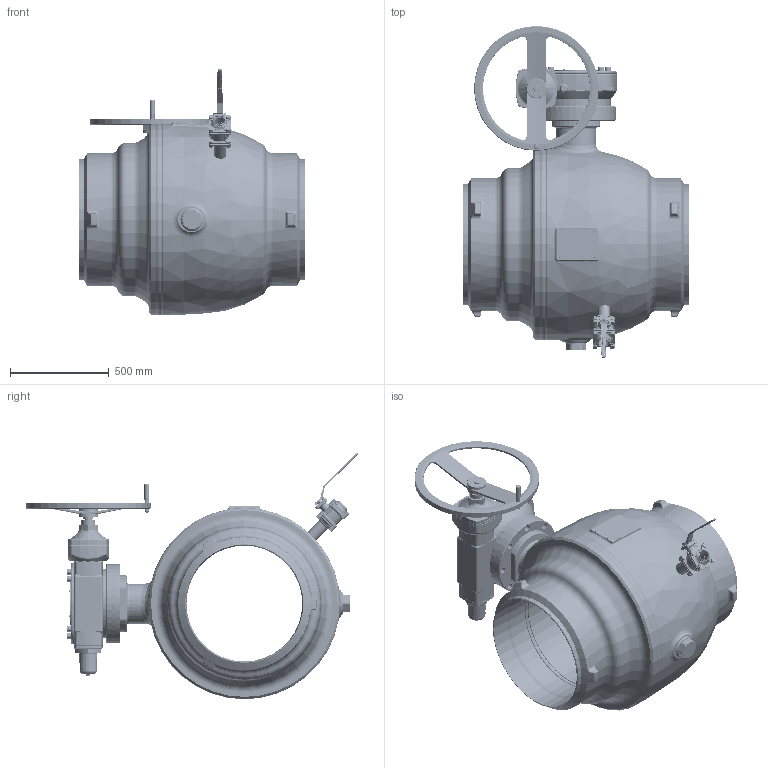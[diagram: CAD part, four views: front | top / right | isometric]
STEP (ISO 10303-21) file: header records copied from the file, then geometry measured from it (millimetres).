
FILE_DESCRIPTION((''),'2;1');
FILE_NAME('ASM0001_ASM','2026-01-28T11:14:52',('schwaba'),('KLINGER'),'CREO PARAMETRIC BY PTC INC, 2023014','CREO PARAMETRIC BY PTC INC, 2023014','');
FILE_SCHEMA(('CONFIG_CONTROL_DESIGN'));
Length unit declared in the file: millimetre
Products named in the file (3): KHSVI_600_FR_WE_ENTL; GS200_434_F30_AHR630_DN600; ASM0001_ASM
Assembly tree (2 placements, depth 2):
  ASM0001_ASM
    KHSVI_600_FR_WE_ENTL
    GS200_434_F30_AHR630_DN600
Bounding box: 1143 x 1677.04 x 1245.7 mm (x, y, z)
Volume: 237982656 mm3; surface area: 14245526.6 mm2
Topology: 2 solids, 6 shells, 4997 faces, 11968 edges, 7127 vertices
Faces by surface type: plane 1538, cylinder 1280, torus 765, cone 674, bspline 592, sphere 109, revolution 31, extrusion 8
Entity records: 294576 total; most frequent: CARTESIAN_POINT 184007, ORIENTED_EDGE 23814, DIRECTION 22446, EDGE_CURVE 11907, AXIS2_PLACEMENT_3D 9372, VERTEX_POINT 7127, EDGE_LOOP 5332, FACE_OUTER_BOUND 4997
